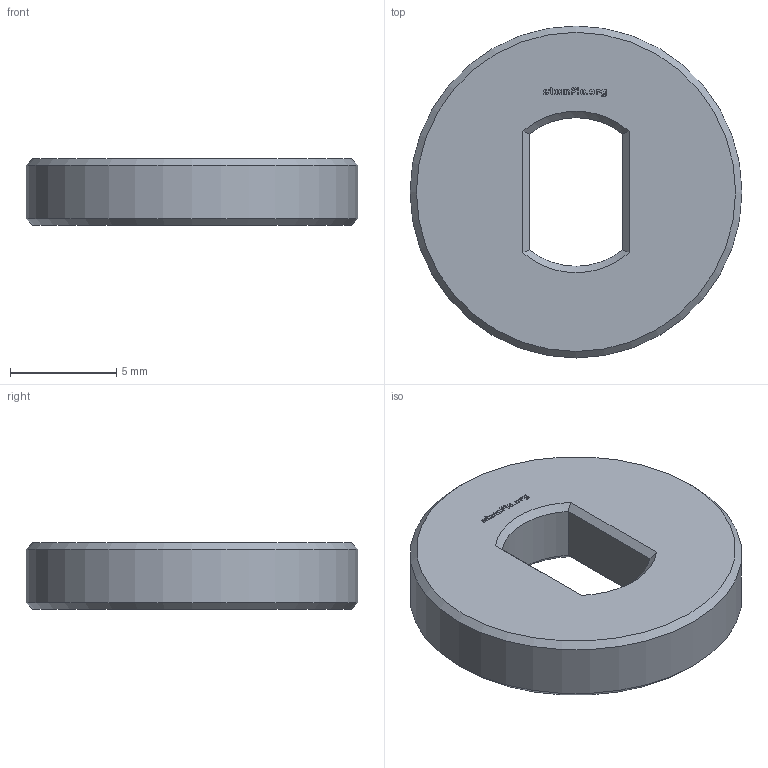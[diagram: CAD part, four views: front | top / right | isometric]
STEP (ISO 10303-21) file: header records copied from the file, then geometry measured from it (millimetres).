
FILE_DESCRIPTION(/* description */ (''),/* implementation_level */ '2;1');
FILE_NAME(/* name */ '/Users/paulokiefe/Desktop/STEMFIE/Fasteners/Washers/Fixed/Washer WSR FXD BU0.25x1.25 - SPN-WSR-0002 v3.step',/* time_stamp */ '2020-09-27T23:11:25+02:00',/* author */ (''),/* organization */ (''),/* preprocessor_version */ 'ST-DEVELOPER v18.1',/* originating_system */ 'Autodesk Translation Framework v9.3.0.1241',/* authorisation */ '');
FILE_SCHEMA (('AUTOMOTIVE_DESIGN { 1 0 10303 214 3 1 1 }'));
Length unit declared in the file: millimetre
Products named in the file (1): Washer WSR FXD BU0.25x1.25 - SPN-WSR-0002
Bounding box: 15.62 x 15.62 x 3.12 mm (x, y, z)
Volume: 503.5 mm3; surface area: 519.6 mm2
Topology: 1 solids, 1 shells, 261 faces, 731 edges, 484 vertices
Faces by surface type: plane 252, cone 6, cylinder 3
Full cylindrical faces by diameter (mm): 15.625 x1
Entity records: 8262 total; most frequent: CARTESIAN_POINT 1501, ORIENTED_EDGE 1462, DIRECTION 1259, EDGE_CURVE 731, LINE 711, VECTOR 711, VERTEX_POINT 484, EDGE_LOOP 275
